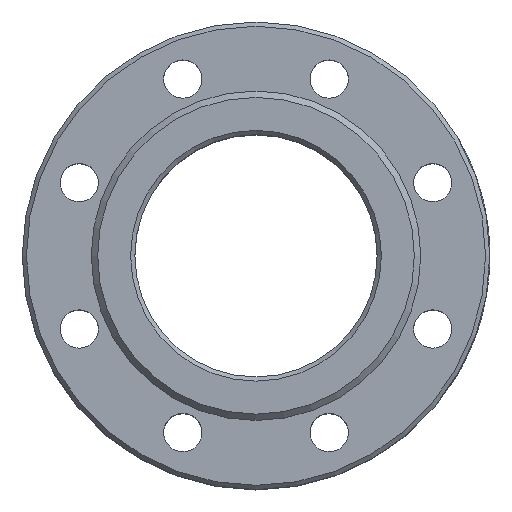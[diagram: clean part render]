
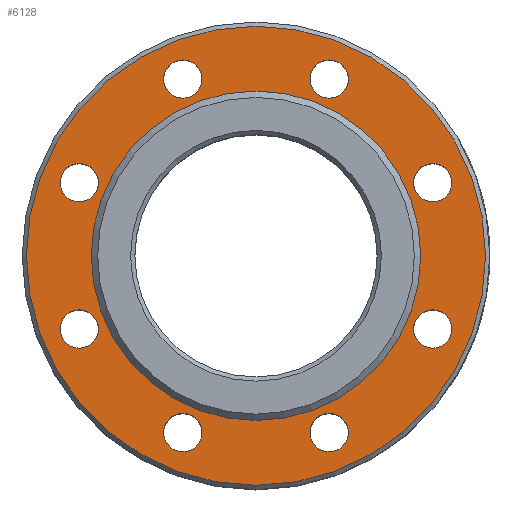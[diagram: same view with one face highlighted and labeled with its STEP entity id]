
A CAD part, top view. The second image highlights one B-rep face of the part: STEP entity #6128.
In plain terms, the highlighted planar face has unit normal (0, 0, 1).
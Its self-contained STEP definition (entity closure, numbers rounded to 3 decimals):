
#243=FACE_BOUND('',#1172,.T.);
#244=FACE_BOUND('',#1173,.T.);
#245=FACE_BOUND('',#1174,.T.);
#246=FACE_BOUND('',#1175,.T.);
#247=FACE_BOUND('',#1176,.T.);
#248=FACE_BOUND('',#1177,.T.);
#249=FACE_BOUND('',#1178,.T.);
#250=FACE_BOUND('',#1179,.T.);
#251=FACE_BOUND('',#1180,.T.);
#484=PLANE('',#6689);
#776=FACE_OUTER_BOUND('',#1171,.T.);
#1171=EDGE_LOOP('',(#5151));
#1172=EDGE_LOOP('',(#5152));
#1173=EDGE_LOOP('',(#5153));
#1174=EDGE_LOOP('',(#5154));
#1175=EDGE_LOOP('',(#5155));
#1176=EDGE_LOOP('',(#5156));
#1177=EDGE_LOOP('',(#5157));
#1178=EDGE_LOOP('',(#5158));
#1179=EDGE_LOOP('',(#5159));
#1180=EDGE_LOOP('',(#5160));
#1690=CIRCLE('',#6688,108.);
#1691=CIRCLE('',#6690,9.);
#1692=CIRCLE('',#6691,9.);
#1693=CIRCLE('',#6692,9.);
#1694=CIRCLE('',#6693,77.5);
#1695=CIRCLE('',#6694,9.);
#1696=CIRCLE('',#6695,9.);
#1697=CIRCLE('',#6696,9.);
#1698=CIRCLE('',#6697,9.);
#1699=CIRCLE('',#6698,9.);
#2879=VERTEX_POINT('',#12689);
#2880=VERTEX_POINT('',#12693);
#2881=VERTEX_POINT('',#12695);
#2882=VERTEX_POINT('',#12697);
#2883=VERTEX_POINT('',#12699);
#2884=VERTEX_POINT('',#12701);
#2885=VERTEX_POINT('',#12703);
#2886=VERTEX_POINT('',#12705);
#2887=VERTEX_POINT('',#12707);
#2888=VERTEX_POINT('',#12709);
#3651=EDGE_CURVE('',#2879,#2879,#1690,.T.);
#3652=EDGE_CURVE('',#2880,#2880,#1691,.T.);
#3653=EDGE_CURVE('',#2881,#2881,#1692,.T.);
#3654=EDGE_CURVE('',#2882,#2882,#1693,.T.);
#3655=EDGE_CURVE('',#2883,#2883,#1694,.T.);
#3656=EDGE_CURVE('',#2884,#2884,#1695,.T.);
#3657=EDGE_CURVE('',#2885,#2885,#1696,.T.);
#3658=EDGE_CURVE('',#2886,#2886,#1697,.T.);
#3659=EDGE_CURVE('',#2887,#2887,#1698,.T.);
#3660=EDGE_CURVE('',#2888,#2888,#1699,.T.);
#5151=ORIENTED_EDGE('',*,*,#3651,.T.);
#5152=ORIENTED_EDGE('',*,*,#3652,.T.);
#5153=ORIENTED_EDGE('',*,*,#3653,.T.);
#5154=ORIENTED_EDGE('',*,*,#3654,.T.);
#5155=ORIENTED_EDGE('',*,*,#3655,.T.);
#5156=ORIENTED_EDGE('',*,*,#3656,.T.);
#5157=ORIENTED_EDGE('',*,*,#3657,.T.);
#5158=ORIENTED_EDGE('',*,*,#3658,.T.);
#5159=ORIENTED_EDGE('',*,*,#3659,.T.);
#5160=ORIENTED_EDGE('',*,*,#3660,.T.);
#6128=ADVANCED_FACE('',(#776,#243,#244,#245,#246,#247,#248,#249,#250,#251),
#484,.F.);
#6688=AXIS2_PLACEMENT_3D('',#12691,#8089,#8090);
#6689=AXIS2_PLACEMENT_3D('',#12692,#8091,#8092);
#6690=AXIS2_PLACEMENT_3D('',#12694,#8093,#8094);
#6691=AXIS2_PLACEMENT_3D('',#12696,#8095,#8096);
#6692=AXIS2_PLACEMENT_3D('',#12698,#8097,#8098);
#6693=AXIS2_PLACEMENT_3D('',#12700,#8099,#8100);
#6694=AXIS2_PLACEMENT_3D('',#12702,#8101,#8102);
#6695=AXIS2_PLACEMENT_3D('',#12704,#8103,#8104);
#6696=AXIS2_PLACEMENT_3D('',#12706,#8105,#8106);
#6697=AXIS2_PLACEMENT_3D('',#12708,#8107,#8108);
#6698=AXIS2_PLACEMENT_3D('',#12710,#8109,#8110);
#8089=DIRECTION('center_axis',(0.,0.,1.));
#8090=DIRECTION('ref_axis',(0.,1.,0.));
#8091=DIRECTION('center_axis',(0.,0.,-1.));
#8092=DIRECTION('ref_axis',(-1.,0.,0.));
#8093=DIRECTION('center_axis',(0.,0.,-1.));
#8094=DIRECTION('ref_axis',(-1.,0.,0.));
#8095=DIRECTION('center_axis',(0.,0.,-1.));
#8096=DIRECTION('ref_axis',(-1.,0.,0.));
#8097=DIRECTION('center_axis',(0.,0.,-1.));
#8098=DIRECTION('ref_axis',(-1.,0.,0.));
#8099=DIRECTION('center_axis',(0.,0.,-1.));
#8100=DIRECTION('ref_axis',(1.,0.,0.));
#8101=DIRECTION('center_axis',(0.,0.,-1.));
#8102=DIRECTION('ref_axis',(-1.,0.,0.));
#8103=DIRECTION('center_axis',(0.,0.,-1.));
#8104=DIRECTION('ref_axis',(-1.,0.,0.));
#8105=DIRECTION('center_axis',(0.,0.,-1.));
#8106=DIRECTION('ref_axis',(-1.,0.,0.));
#8107=DIRECTION('center_axis',(0.,0.,-1.));
#8108=DIRECTION('ref_axis',(-1.,0.,0.));
#8109=DIRECTION('center_axis',(0.,0.,-1.));
#8110=DIRECTION('ref_axis',(-1.,0.,0.));
#12689=CARTESIAN_POINT('',(0.,-108.,57.));
#12691=CARTESIAN_POINT('Origin',(0.,0.,57.));
#12692=CARTESIAN_POINT('Origin',(0.,0.,57.));
#12693=CARTESIAN_POINT('',(92.149,34.442,57.));
#12694=CARTESIAN_POINT('Origin',(83.149,34.442,57.));
#12695=CARTESIAN_POINT('',(43.442,83.149,57.));
#12696=CARTESIAN_POINT('Origin',(34.442,83.149,57.));
#12697=CARTESIAN_POINT('',(-25.442,83.149,57.));
#12698=CARTESIAN_POINT('Origin',(-34.442,83.149,57.));
#12699=CARTESIAN_POINT('',(-77.5,0.,57.));
#12700=CARTESIAN_POINT('Origin',(0.,0.,57.));
#12701=CARTESIAN_POINT('',(-74.149,34.442,57.));
#12702=CARTESIAN_POINT('Origin',(-83.149,34.442,57.));
#12703=CARTESIAN_POINT('',(43.442,-83.149,57.));
#12704=CARTESIAN_POINT('Origin',(34.442,-83.149,57.));
#12705=CARTESIAN_POINT('',(-74.149,-34.442,57.));
#12706=CARTESIAN_POINT('Origin',(-83.149,-34.442,57.));
#12707=CARTESIAN_POINT('',(92.149,-34.442,57.));
#12708=CARTESIAN_POINT('Origin',(83.149,-34.442,57.));
#12709=CARTESIAN_POINT('',(-25.442,-83.149,57.));
#12710=CARTESIAN_POINT('Origin',(-34.442,-83.149,57.));
